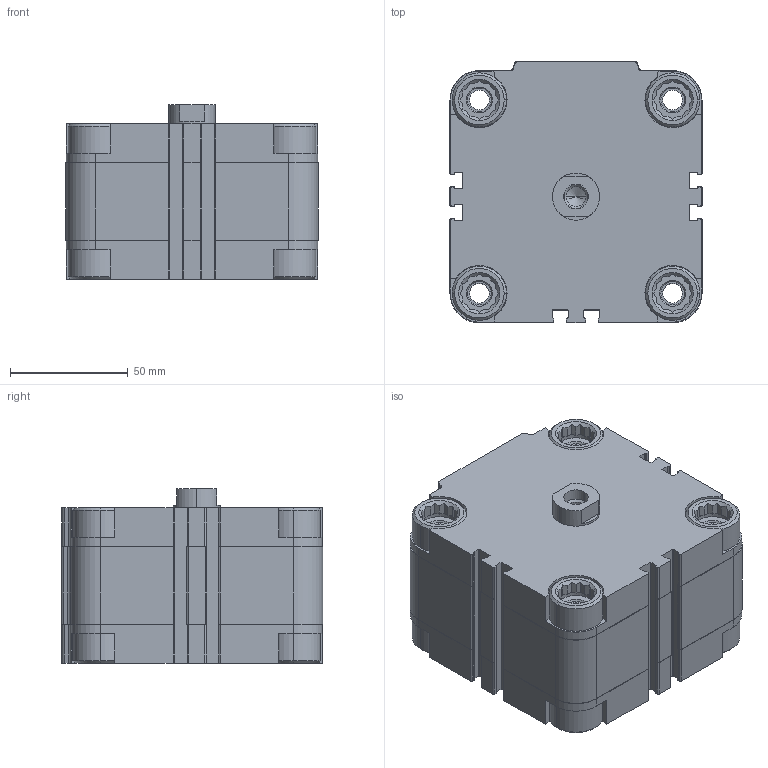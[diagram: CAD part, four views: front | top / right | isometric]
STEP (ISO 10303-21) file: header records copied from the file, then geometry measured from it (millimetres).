
FILE_DESCRIPTION (( 'STEP AP203' ), '1' );
FILE_NAME ('CDVU80-10F.STEP', '2020-03-30T15:03:06', ( '' ), ( '' ), 'SwSTEP 2.0', 'SolidWorks 2019', '' );
FILE_SCHEMA (( 'CONFIG_CONTROL_DESIGN' ));
Length unit declared in the file: millimetre
Products named in the file (1): CDVU80-10F
Bounding box: 107 x 111 x 74 mm (x, y, z)
Volume: 661285.9 mm3; surface area: 105052.5 mm2
Topology: 2 solids, 2 shells, 657 faces, 1778 edges, 1167 vertices
Faces by surface type: plane 389, cylinder 206, cone 62
Entity records: 20873 total; most frequent: CARTESIAN_POINT 4173, ORIENTED_EDGE 3544, DIRECTION 3384, EDGE_CURVE 1772, VERTEX_POINT 1167, AXIS2_PLACEMENT_3D 1146, LINE 1092, VECTOR 1092
